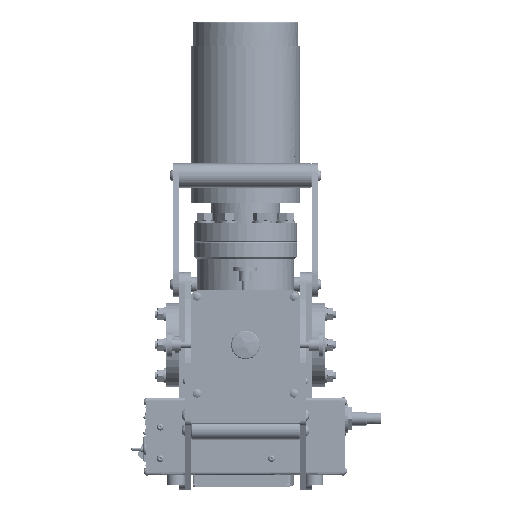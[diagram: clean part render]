
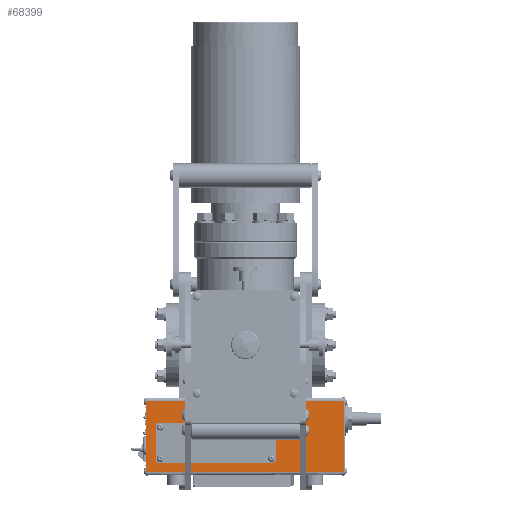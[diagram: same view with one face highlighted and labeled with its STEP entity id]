
A CAD part, left-side view. The second image highlights one B-rep face of the part: STEP entity #68399.
In plain terms, the highlighted planar face has unit normal (1, 0, 0).
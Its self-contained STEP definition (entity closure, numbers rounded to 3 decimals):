
#68248=AXIS2_PLACEMENT_3D('Plane Axis2P3D',#68245,#68246,#68247) ;
#68344=AXIS2_PLACEMENT_3D('Circle Axis2P3D',#68342,#68343,$) ;
#68358=AXIS2_PLACEMENT_3D('Circle Axis2P3D',#68356,#68357,$) ;
#68372=AXIS2_PLACEMENT_3D('Circle Axis2P3D',#68370,#68371,$) ;
#68386=AXIS2_PLACEMENT_3D('Circle Axis2P3D',#68384,#68385,$) ;
#54872=CARTESIAN_POINT('Vertex',(-419.5,-79.5,-105.5)) ;
#54906=CARTESIAN_POINT('Vertex',(-419.5,70.5,-105.5)) ;
#54909=CARTESIAN_POINT('Line Origine',(-419.5,70.5,-105.5)) ;
#59462=CARTESIAN_POINT('Vertex',(-419.5,80.5,-105.5)) ;
#59465=CARTESIAN_POINT('Line Origine',(-419.5,80.5,-105.5)) ;
#68129=CARTESIAN_POINT('Line Origine',(-419.5,-79.5,-105.32)) ;
#68133=CARTESIAN_POINT('Vertex',(-419.5,-79.5,-105.14)) ;
#68245=CARTESIAN_POINT('Axis2P3D Location',(-419.5,80.5,-65.61)) ;
#68250=CARTESIAN_POINT('Line Origine',(-419.5,-80.5,-46.64)) ;
#68254=CARTESIAN_POINT('Vertex',(-419.5,-79.5,-46.64)) ;
#68256=CARTESIAN_POINT('Vertex',(-419.5,-81.5,-46.64)) ;
#68259=CARTESIAN_POINT('Line Origine',(-419.5,-81.5,-75.89)) ;
#68263=CARTESIAN_POINT('Vertex',(-419.5,-81.5,-105.14)) ;
#68266=CARTESIAN_POINT('Line Origine',(-419.5,-80.5,-105.14)) ;
#68271=CARTESIAN_POINT('Line Origine',(-419.5,80.5,-105.32)) ;
#68275=CARTESIAN_POINT('Vertex',(-419.5,80.5,-105.14)) ;
#68278=CARTESIAN_POINT('Line Origine',(-419.5,81.5,-105.14)) ;
#68282=CARTESIAN_POINT('Vertex',(-419.5,82.5,-105.14)) ;
#68285=CARTESIAN_POINT('Line Origine',(-419.5,82.5,-75.89)) ;
#68289=CARTESIAN_POINT('Vertex',(-419.5,82.5,-46.64)) ;
#68292=CARTESIAN_POINT('Line Origine',(-419.5,81.5,-46.64)) ;
#68296=CARTESIAN_POINT('Vertex',(-419.5,80.5,-46.64)) ;
#68299=CARTESIAN_POINT('Line Origine',(-419.5,80.5,-46.39)) ;
#68303=CARTESIAN_POINT('Vertex',(-419.5,80.5,-46.14)) ;
#68306=CARTESIAN_POINT('Line Origine',(-419.5,0.5,-46.14)) ;
#68310=CARTESIAN_POINT('Vertex',(-419.5,-79.5,-46.14)) ;
#68313=CARTESIAN_POINT('Line Origine',(-419.5,-79.5,-46.39)) ;
#68333=CARTESIAN_POINT('Line Origine',(-419.5,-25.,-81.)) ;
#68337=CARTESIAN_POINT('Vertex',(-419.5,-25.,-66.5)) ;
#68339=CARTESIAN_POINT('Vertex',(-419.5,-25.,-95.5)) ;
#68342=CARTESIAN_POINT('Axis2P3D Location',(-419.5,-23.,-66.5)) ;
#68346=CARTESIAN_POINT('Vertex',(-419.5,-23.,-64.5)) ;
#68349=CARTESIAN_POINT('Line Origine',(-419.5,24.5,-64.5)) ;
#68353=CARTESIAN_POINT('Vertex',(-419.5,72.,-64.5)) ;
#68356=CARTESIAN_POINT('Axis2P3D Location',(-419.5,72.,-66.5)) ;
#68360=CARTESIAN_POINT('Vertex',(-419.5,74.,-66.5)) ;
#68363=CARTESIAN_POINT('Line Origine',(-419.5,74.,-81.)) ;
#68367=CARTESIAN_POINT('Vertex',(-419.5,74.,-95.5)) ;
#68370=CARTESIAN_POINT('Axis2P3D Location',(-419.5,72.,-95.5)) ;
#68374=CARTESIAN_POINT('Vertex',(-419.5,72.,-97.5)) ;
#68377=CARTESIAN_POINT('Line Origine',(-419.5,24.5,-97.5)) ;
#68381=CARTESIAN_POINT('Vertex',(-419.5,-23.,-97.5)) ;
#68384=CARTESIAN_POINT('Axis2P3D Location',(-419.5,-23.,-95.5)) ;
#54910=DIRECTION('Vector Direction',(0.,-1.,0.)) ;
#59466=DIRECTION('Vector Direction',(0.,-1.,0.)) ;
#68130=DIRECTION('Vector Direction',(0.,0.,1.)) ;
#68246=DIRECTION('Axis2P3D Direction',(-1.,0.,0.)) ;
#68247=DIRECTION('Axis2P3D XDirection',(0.,1.,0.)) ;
#68251=DIRECTION('Vector Direction',(0.,-1.,0.)) ;
#68260=DIRECTION('Vector Direction',(0.,0.,1.)) ;
#68267=DIRECTION('Vector Direction',(0.,-1.,0.)) ;
#68272=DIRECTION('Vector Direction',(0.,0.,-1.)) ;
#68279=DIRECTION('Vector Direction',(0.,1.,0.)) ;
#68286=DIRECTION('Vector Direction',(0.,0.,-1.)) ;
#68293=DIRECTION('Vector Direction',(0.,1.,0.)) ;
#68300=DIRECTION('Vector Direction',(0.,0.,-1.)) ;
#68307=DIRECTION('Vector Direction',(0.,-1.,0.)) ;
#68314=DIRECTION('Vector Direction',(0.,0.,1.)) ;
#68334=DIRECTION('Vector Direction',(0.,0.,1.)) ;
#68343=DIRECTION('Axis2P3D Direction',(-1.,0.,0.)) ;
#68350=DIRECTION('Vector Direction',(0.,1.,0.)) ;
#68357=DIRECTION('Axis2P3D Direction',(-1.,0.,0.)) ;
#68364=DIRECTION('Vector Direction',(0.,0.,-1.)) ;
#68371=DIRECTION('Axis2P3D Direction',(-1.,0.,0.)) ;
#68378=DIRECTION('Vector Direction',(0.,-1.,0.)) ;
#68385=DIRECTION('Axis2P3D Direction',(-1.,0.,0.)) ;
#54911=VECTOR('Line Direction',#54910,1.) ;
#59467=VECTOR('Line Direction',#59466,1.) ;
#68131=VECTOR('Line Direction',#68130,1.) ;
#68252=VECTOR('Line Direction',#68251,1.) ;
#68261=VECTOR('Line Direction',#68260,1.) ;
#68268=VECTOR('Line Direction',#68267,1.) ;
#68273=VECTOR('Line Direction',#68272,1.) ;
#68280=VECTOR('Line Direction',#68279,1.) ;
#68287=VECTOR('Line Direction',#68286,1.) ;
#68294=VECTOR('Line Direction',#68293,1.) ;
#68301=VECTOR('Line Direction',#68300,1.) ;
#68308=VECTOR('Line Direction',#68307,1.) ;
#68315=VECTOR('Line Direction',#68314,1.) ;
#68335=VECTOR('Line Direction',#68334,1.) ;
#68351=VECTOR('Line Direction',#68350,1.) ;
#68365=VECTOR('Line Direction',#68364,1.) ;
#68379=VECTOR('Line Direction',#68378,1.) ;
#68319=ORIENTED_EDGE('',*,*,#68258,.T.) ;
#68320=ORIENTED_EDGE('',*,*,#68265,.T.) ;
#68321=ORIENTED_EDGE('',*,*,#68270,.F.) ;
#68322=ORIENTED_EDGE('',*,*,#68135,.T.) ;
#68323=ORIENTED_EDGE('',*,*,#54913,.F.) ;
#68324=ORIENTED_EDGE('',*,*,#59469,.F.) ;
#68325=ORIENTED_EDGE('',*,*,#68277,.F.) ;
#68326=ORIENTED_EDGE('',*,*,#68284,.T.) ;
#68327=ORIENTED_EDGE('',*,*,#68291,.T.) ;
#68328=ORIENTED_EDGE('',*,*,#68298,.F.) ;
#68329=ORIENTED_EDGE('',*,*,#68305,.F.) ;
#68330=ORIENTED_EDGE('',*,*,#68312,.T.) ;
#68331=ORIENTED_EDGE('',*,*,#68317,.F.) ;
#68390=ORIENTED_EDGE('',*,*,#68341,.F.) ;
#68391=ORIENTED_EDGE('',*,*,#68348,.T.) ;
#68392=ORIENTED_EDGE('',*,*,#68355,.F.) ;
#68393=ORIENTED_EDGE('',*,*,#68362,.T.) ;
#68394=ORIENTED_EDGE('',*,*,#68369,.F.) ;
#68395=ORIENTED_EDGE('',*,*,#68376,.T.) ;
#68396=ORIENTED_EDGE('',*,*,#68383,.F.) ;
#68397=ORIENTED_EDGE('',*,*,#68388,.T.) ;
#68398=FACE_BOUND('',#68389,.T.) ;
#68399=ADVANCED_FACE('Closed Shell',(#68332,#68398),#68249,.F.) ;
#68345=CIRCLE('generated circle',#68344,2.) ;
#68359=CIRCLE('generated circle',#68358,2.) ;
#68373=CIRCLE('generated circle',#68372,2.) ;
#68387=CIRCLE('generated circle',#68386,2.) ;
#54913=EDGE_CURVE('',#54907,#54873,#54912,.T.) ;
#59469=EDGE_CURVE('',#59463,#54907,#59468,.T.) ;
#68135=EDGE_CURVE('',#68134,#54873,#68132,.F.) ;
#68258=EDGE_CURVE('',#68255,#68257,#68253,.T.) ;
#68265=EDGE_CURVE('',#68257,#68264,#68262,.F.) ;
#68270=EDGE_CURVE('',#68134,#68264,#68269,.T.) ;
#68277=EDGE_CURVE('',#68276,#59463,#68274,.T.) ;
#68284=EDGE_CURVE('',#68276,#68283,#68281,.T.) ;
#68291=EDGE_CURVE('',#68283,#68290,#68288,.F.) ;
#68298=EDGE_CURVE('',#68297,#68290,#68295,.T.) ;
#68305=EDGE_CURVE('',#68304,#68297,#68302,.T.) ;
#68312=EDGE_CURVE('',#68304,#68311,#68309,.T.) ;
#68317=EDGE_CURVE('',#68255,#68311,#68316,.T.) ;
#68341=EDGE_CURVE('',#68338,#68340,#68336,.F.) ;
#68348=EDGE_CURVE('',#68338,#68347,#68345,.T.) ;
#68355=EDGE_CURVE('',#68354,#68347,#68352,.F.) ;
#68362=EDGE_CURVE('',#68354,#68361,#68359,.T.) ;
#68369=EDGE_CURVE('',#68368,#68361,#68366,.F.) ;
#68376=EDGE_CURVE('',#68368,#68375,#68373,.T.) ;
#68383=EDGE_CURVE('',#68382,#68375,#68380,.F.) ;
#68388=EDGE_CURVE('',#68382,#68340,#68387,.T.) ;
#68318=EDGE_LOOP('',(#68319,#68320,#68321,#68322,#68323,#68324,#68325,#68326,#68327,#68328,#68329,#68330,#68331)) ;
#68389=EDGE_LOOP('',(#68390,#68391,#68392,#68393,#68394,#68395,#68396,#68397)) ;
#68332=FACE_OUTER_BOUND('',#68318,.T.) ;
#54912=LINE('Line',#54909,#54911) ;
#59468=LINE('Line',#59465,#59467) ;
#68132=LINE('Line',#68129,#68131) ;
#68253=LINE('Line',#68250,#68252) ;
#68262=LINE('Line',#68259,#68261) ;
#68269=LINE('Line',#68266,#68268) ;
#68274=LINE('Line',#68271,#68273) ;
#68281=LINE('Line',#68278,#68280) ;
#68288=LINE('Line',#68285,#68287) ;
#68295=LINE('Line',#68292,#68294) ;
#68302=LINE('Line',#68299,#68301) ;
#68309=LINE('Line',#68306,#68308) ;
#68316=LINE('Line',#68313,#68315) ;
#68336=LINE('Line',#68333,#68335) ;
#68352=LINE('Line',#68349,#68351) ;
#68366=LINE('Line',#68363,#68365) ;
#68380=LINE('Line',#68377,#68379) ;
#68249=PLANE('',#68248) ;
#54873=VERTEX_POINT('',#54872) ;
#54907=VERTEX_POINT('',#54906) ;
#59463=VERTEX_POINT('',#59462) ;
#68134=VERTEX_POINT('',#68133) ;
#68255=VERTEX_POINT('',#68254) ;
#68257=VERTEX_POINT('',#68256) ;
#68264=VERTEX_POINT('',#68263) ;
#68276=VERTEX_POINT('',#68275) ;
#68283=VERTEX_POINT('',#68282) ;
#68290=VERTEX_POINT('',#68289) ;
#68297=VERTEX_POINT('',#68296) ;
#68304=VERTEX_POINT('',#68303) ;
#68311=VERTEX_POINT('',#68310) ;
#68338=VERTEX_POINT('',#68337) ;
#68340=VERTEX_POINT('',#68339) ;
#68347=VERTEX_POINT('',#68346) ;
#68354=VERTEX_POINT('',#68353) ;
#68361=VERTEX_POINT('',#68360) ;
#68368=VERTEX_POINT('',#68367) ;
#68375=VERTEX_POINT('',#68374) ;
#68382=VERTEX_POINT('',#68381) ;
